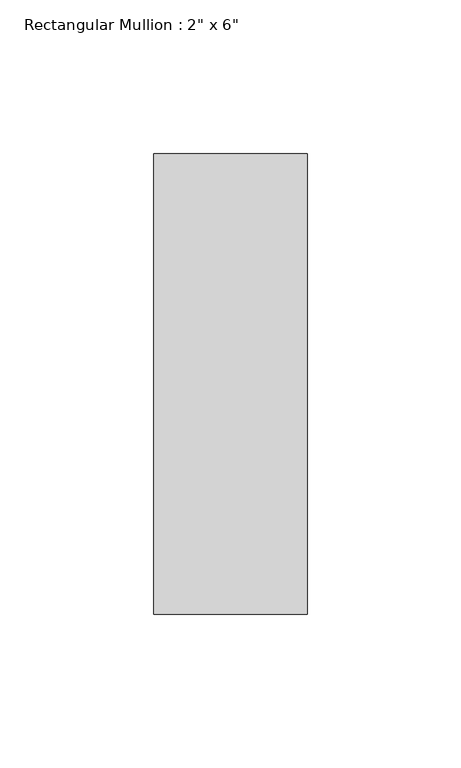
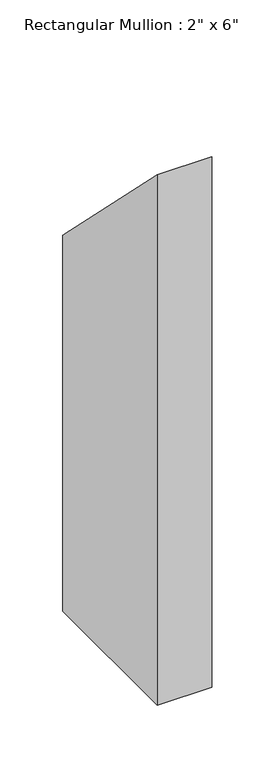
"""IFC4 building model written with IfcOpenShell, lengths in millimetres: member geometry."""

from ifc_helpers import new_model, si_unit, frame, origin, place, context, project, spatial, polyline, outline, extrude, source, transform, mapped, element, save


def member_80f2b523(model_context):
    return source(origin(), model_context, "Body", "SweptSolid", [
        extrude(outline(polyline([(0.0, 0.0), (150.0, -150.0), (150.0, -514.9999996), (0.0, -514.9999996), (0.0, 0.0)])), frame((-25.0, 0.0, 0.0), z_axis=(1.0, 0.0, 0.0), x_axis=(0.0, 1.0, 0.0)), (0.0, 0.0, 1.0), 50.0),
    ])


if __name__ == "__main__":
    model = new_model("IFC4")
    model_context = context("Model", 3, world=origin())
    ifc_project = project(units=[si_unit("LENGTHUNIT", "METRE", prefix="MILLI")], contexts=[model_context])
    site = spatial("IfcSite", under=ifc_project)
    building = spatial("IfcBuilding", under=site)
    placement = place(None, origin())
    member_shape = member_80f2b523(model_context)
    element("IfcMember", 1, ObjectType="Rectangular Mullion : 2\" x 6\"", at=placement, inside=building, context=model_context, shape_type="MappedRepresentation", body=[
        mapped(member_shape, transform((0.0, 0.0, 0.0), x_axis=(1.0, 0.0, 0.0), y_axis=(0.0, 1.0, 0.0), z_axis=(0.0, 0.0, 1.0))),
    ])
    save(model, "model.ifc")
